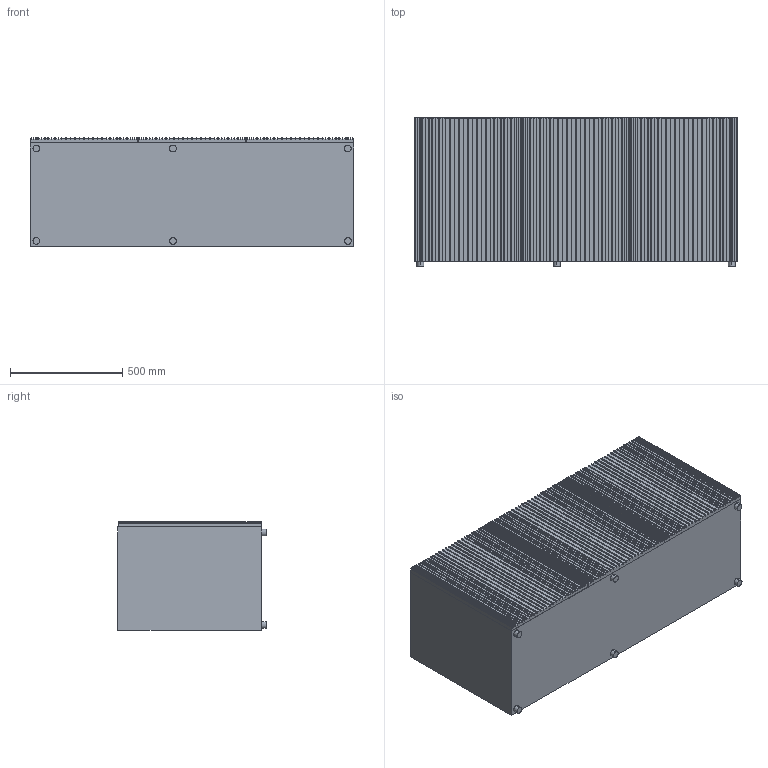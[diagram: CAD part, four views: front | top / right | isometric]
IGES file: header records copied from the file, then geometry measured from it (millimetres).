
Start section: SolidWorks IGES file using analytic representation for surfaces
Global section: file name: C:\Users\Matteo\Desktop\_Horm\_carlos\_collezione carlos\_IGS CARLOS\CARLOS cm 144X49X66H.IGS; native system: SolidWorks 2010; preprocessor: SolidWorks 2010; author: Matteo; date: 160224.161703; units: millimetre
Bounding box: 1440 x 660 x 484 mm (x, y, z)
Surface area: 7737551 mm2 (no closed solid volume)
Topology: 0 solids, 0 shells, 1158 faces, 8904 edges, 8904 vertices
Faces by surface type: bspline 960, revolution 198
